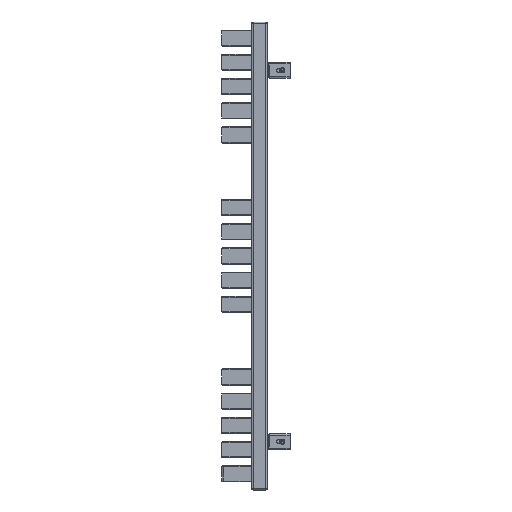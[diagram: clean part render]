
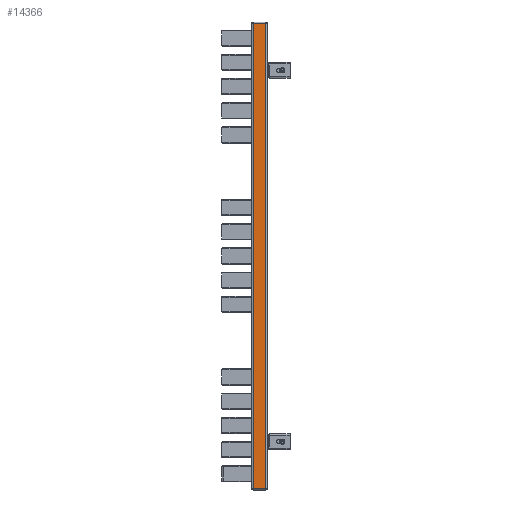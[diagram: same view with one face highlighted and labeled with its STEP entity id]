
A CAD part, left-side view. The second image highlights one B-rep face of the part: STEP entity #14366.
In plain terms, the highlighted planar face has unit normal (-1, 0, 0).
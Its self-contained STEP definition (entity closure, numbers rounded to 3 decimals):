
#14200=CARTESIAN_POINT('',(-225.0,-12.,867.0));
#14201=VERTEX_POINT('',#14200);
#14210=CARTESIAN_POINT('',(-225.0,12.,867.0));
#14211=VERTEX_POINT('',#14210);
#14219=CARTESIAN_POINT('',(-225.0,12.,867.0));
#14220=DIRECTION('',(0.0,-1.0,0.0));
#14221=VECTOR('',#14220,24.);
#14222=LINE('',#14219,#14221);
#14223=EDGE_CURVE('',#14211,#14201,#14222,.T.);
#14324=CARTESIAN_POINT('',(-225.0,-12.,3.0));
#14325=VERTEX_POINT('',#14324);
#14326=CARTESIAN_POINT('',(-225.0,-12.,3.0));
#14327=DIRECTION('',(0.0,0.0,1.0));
#14328=VECTOR('',#14327,864.0);
#14329=LINE('',#14326,#14328);
#14330=EDGE_CURVE('',#14325,#14201,#14329,.T.);
#14343=CARTESIAN_POINT('',(-225.0,-12.,0.0));
#14344=DIRECTION('',(-1.0,0.0,0.0));
#14345=DIRECTION('',(0.0,0.0,1.0));
#14346=AXIS2_PLACEMENT_3D('',#14343,#14344,#14345);
#14347=PLANE('',#14346);
#14348=ORIENTED_EDGE('',*,*,#14223,.F.);
#14349=CARTESIAN_POINT('',(-225.0,12.,3.0));
#14350=VERTEX_POINT('',#14349);
#14351=CARTESIAN_POINT('',(-225.0,12.,3.0));
#14352=DIRECTION('',(0.0,0.0,1.0));
#14353=VECTOR('',#14352,864.0);
#14354=LINE('',#14351,#14353);
#14355=EDGE_CURVE('',#14350,#14211,#14354,.T.);
#14356=ORIENTED_EDGE('',*,*,#14355,.F.);
#14357=CARTESIAN_POINT('',(-225.0,-12.,3.0));
#14358=DIRECTION('',(0.0,1.0,0.0));
#14359=VECTOR('',#14358,24.);
#14360=LINE('',#14357,#14359);
#14361=EDGE_CURVE('',#14325,#14350,#14360,.T.);
#14362=ORIENTED_EDGE('',*,*,#14361,.F.);
#14363=ORIENTED_EDGE('',*,*,#14330,.T.);
#14364=EDGE_LOOP('',(#14348,#14356,#14362,#14363));
#14365=FACE_OUTER_BOUND('',#14364,.T.);
#14366=ADVANCED_FACE('',(#14365),#14347,.T.);
